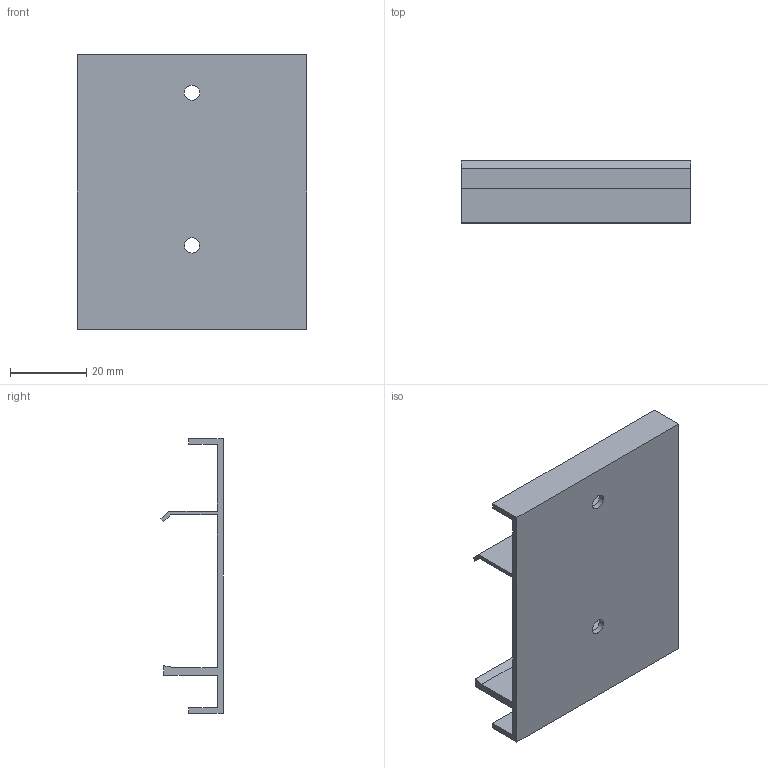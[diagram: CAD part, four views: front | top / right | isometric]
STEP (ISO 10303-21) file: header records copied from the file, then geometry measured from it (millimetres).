
FILE_DESCRIPTION(('STEP AP242'),'1');
FILE_NAME('OPO_65.084.31.stp','2026-02-23T17:30:54',(' '),(' '),'Spatial InterOp 3D',' ',' ');
FILE_SCHEMA(('AP242_MANAGED_MODEL_BASED_3D_ENGINEERING_MIM_LF {1 0 10303 442 1 1 4}'));
Length unit declared in the file: millimetre
Products named in the file (1): 1
Bounding box: 60 x 16.27 x 72 mm (x, y, z)
Volume: 10422.2 mm3; surface area: 14493.9 mm2
Topology: 1 solids, 1 shells, 67 faces, 181 edges, 120 vertices
Faces by surface type: plane 43, cylinder 24
Entity records: 2667 total; most frequent: CARTESIAN_POINT 369, DIRECTION 365, ORIENTED_EDGE 362, EDGE_CURVE 181, LINE 133, VECTOR 133, VERTEX_POINT 120, AXIS2_PLACEMENT_3D 116
